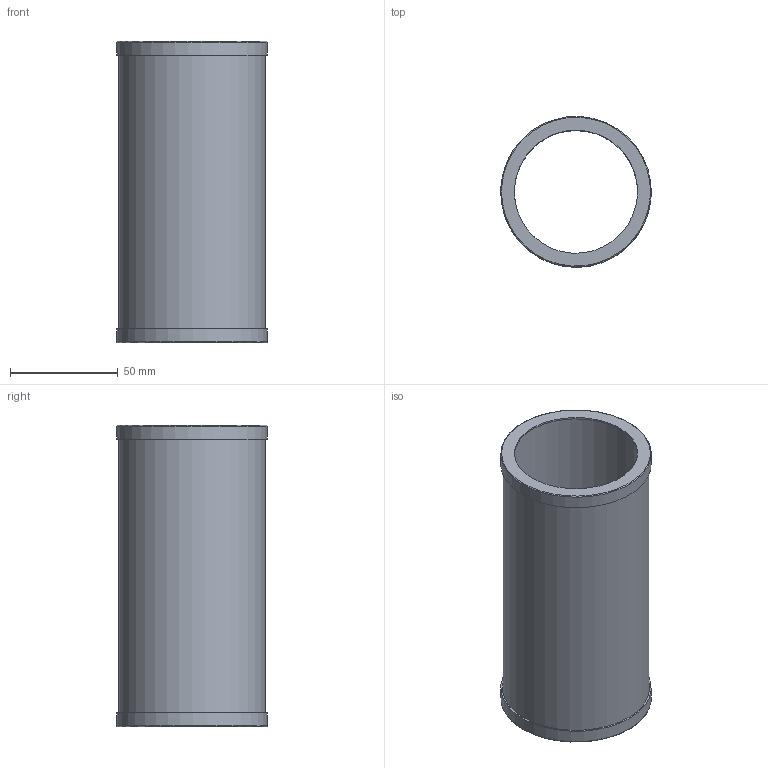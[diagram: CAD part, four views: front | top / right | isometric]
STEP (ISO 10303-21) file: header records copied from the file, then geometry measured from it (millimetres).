
FILE_DESCRIPTION(/* description */ ('Alibre Inc.'),/* implementation_level */ '2;1');
FILE_NAME(/* name */ 'export0',/* time_stamp */ '2016-05-12T11:24:27-04:00',/* author */ (''),/* organization */ (''),/* preprocessor_version */ 'ST-DEVELOPER v14',/* originating_system */ 'Alibre',/* authorisation */ '');
FILE_SCHEMA (('CONFIG_CONTROL_DESIGN'));
Length unit declared in the file: centimetre
Products named in the file (3): ID_1; ID_2
Bounding box: 69.84 x 69.84 x 139.7 mm (x, y, z)
Volume: 29595.3 mm3; surface area: 68911.9 mm2
Topology: 3 solids, 3 shells, 20 faces, 32 edges, 20 vertices
Faces by surface type: cylinder 8, plane 8, torus 4
Full cylindrical faces by diameter (mm): 57.15 x2, 66.04 x1, 67.818 x1, 68.326 x2, 69.85 x2
Entity records: 579 total; most frequent: DIRECTION 53, CARTESIAN_POINT 42, PERSON_AND_ORGANIZATION 30, AXIS2_PLACEMENT_3D 30, ORIENTED_EDGE 24, EDGE_LOOP 24, FACE_BOUND 24, COORDINATED_UNIVERSAL_TIME_OFFSET 21
